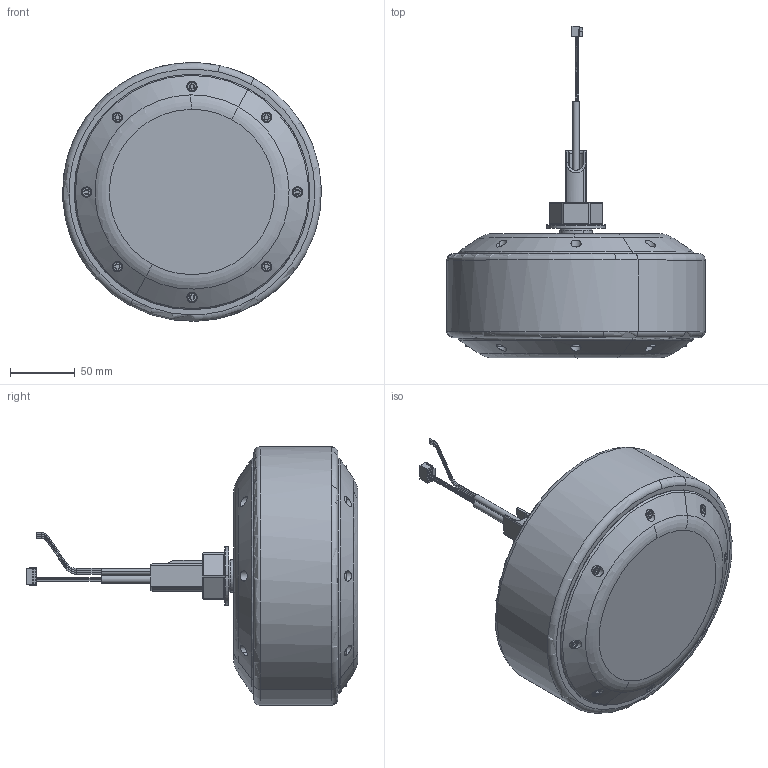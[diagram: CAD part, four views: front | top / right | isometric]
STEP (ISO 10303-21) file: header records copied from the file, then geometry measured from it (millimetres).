
FILE_DESCRIPTION(('CATIA V5 STEP Exchange'),'2;1');
FILE_NAME('C:\Users\Administrator\Desktop\常规电机图纸\8寸\大功率\ZLLG80ASM800 V2.0.stp','2022-02-21T06:33:36+00:00',('none'),('none'),'CATIA Version 5 Release 20 GA (IN-10)','CATIA V5 STEP AP203','none');
FILE_SCHEMA(('CONFIG_CONTROL_DESIGN'));
Length unit declared in the file: millimetre
Products named in the file (27): ZLLG80ASM800_V1_0__ASM; _X2_4EA754C1_X0_3_ASM; _X2_96F64EF6_X0_6; _X2_96F64EF6_X0_7; _X2_96F64EF6_X0_8; _X2_96F64EF6_X0_10; _X2_96F64EF6_X0_11; _X2_96F64EF6_X0_12; _X2_96F64EF6_X0_14; _X2_96F64EF6_X0_17; _X2_96F64EF6_X0_18; _X2_96F64EF6_X0_19; _X2_96F64EF6_X0_4_ASM; _X2_96F64EF6_X0_20; _X2_96F64EF6_X0_21; _X2_96F64EF6_X0_9; _X2_96F64EF6_X0_22; _X2_96F64EF6_X0_23; _X2_96F64EF6_X0_24; _X2_96F64EF6_X0_1; _X2_96F64EF6_X0_3_1_1; _X2_96F64EF6_X0_1_1_1; _X2_96F64EF6_X0_3; _X2_96F64EF6_X0_26; _X2_96F64EF6_X0_27; 5G-shuang; 5G-shuang.2
Assembly tree (55 placements, depth 4):
  ZLLG80ASM800_V1_0__ASM
    _X2_4EA754C1_X0_3_ASM
      #66
      _X2_96F64EF6_X0_6
      _X2_96F64EF6_X0_7
      _X2_96F64EF6_X0_8
      _X2_96F64EF6_X0_10
      _X2_96F64EF6_X0_11
      _X2_96F64EF6_X0_12
      #2797
      _X2_96F64EF6_X0_14  x2
      #3293
      #3668
      _X2_96F64EF6_X0_17
      _X2_96F64EF6_X0_18
      _X2_96F64EF6_X0_19
      _X2_96F64EF6_X0_4_ASM
        #4158
        #4823
        #5490
        #6158
        #6826
        #7491
        #8156
        #8827
      _X2_96F64EF6_X0_20
      _X2_96F64EF6_X0_21
      #9641
      _X2_96F64EF6_X0_9
      _X2_96F64EF6_X0_22
      _X2_96F64EF6_X0_23
      _X2_96F64EF6_X0_24
      #12037
      _X2_96F64EF6_X0_1
      #12297
      #17816
      _X2_96F64EF6_X0_3_1_1
      _X2_96F64EF6_X0_1_1_1
      _X2_96F64EF6_X0_3
      _X2_96F64EF6_X0_26
      _X2_96F64EF6_X0_27
      #23030
    5G-shuang
      #23676
      #23699
      #23722
      #25199
    #27145
    #27362
    #28226
    5G-shuang.2
      #28338
      #23699
      #28376
      #29553
Bounding box: 199.93 x 256.45 x 199.9 mm (x, y, z)
Volume: 2147972.8 mm3; surface area: 387992.2 mm2
Topology: 25 solids, 25 shells, 831 faces, 2105 edges, 1373 vertices
Faces by surface type: cylinder 351, plane 321, torus 77, cone 76, bspline 6
Entity records: 29468 total; most frequent: CARTESIAN_POINT 9486, ORIENTED_EDGE 4130, DIRECTION 3454, EDGE_CURVE 2065, AXIS2_PLACEMENT_3D 1599, VERTEX_POINT 1369, VECTOR 964, EDGE_LOOP 964
